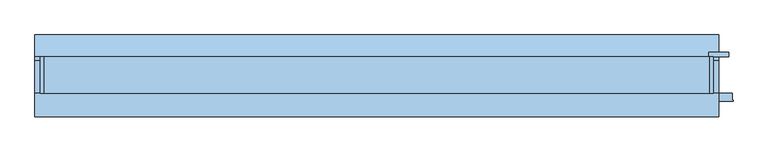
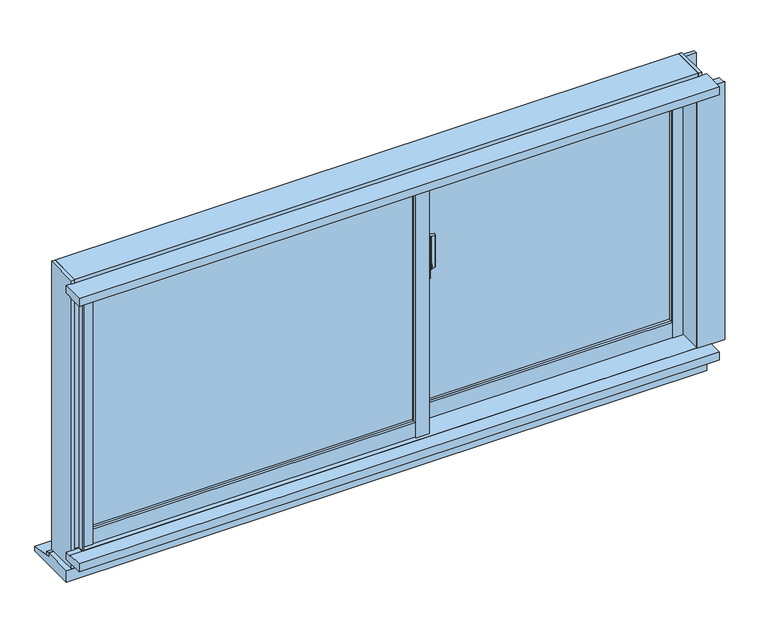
"""IFC4 building model written with IfcOpenShell, lengths in millimetres: window geometry, FNSⅡ100R_非防火_RC枠_単窓 : 外動片引."""

from ifc_helpers import new_model, si_unit, point, frame, frame_2d, origin, place, context, project, spatial, polyline, circle_curve, trimmed, segment, composite_curve, outline, extrude, faceted_brep, source, transform, mapped, element, save
from ifc_brep_helpers import plane_surface, cylinder_surface, revolved_surface, advanced_brep


def window_94f88ecb(model_context):
    return source(origin(), model_context, "Body", "SolidModel", [
        extrude(outline(polyline([(122.0, 25.3), (900.0, 25.3), (900.0, -23.1), (122.0, -23.1), (122.0, 25.3)])), frame((0.0, 0.0, 1700.0), z_axis=(0.0, 0.0, 1.0), x_axis=(1.0, 0.0, 0.0)), (0.0, 0.0, 1.0), 25.0),
        faceted_brep([(-915.0, 25.3, 1725.0), (-900.0, 25.3, 1725.0), (-900.0, -23.1, 1725.0), (122.0, -23.1, 1725.0), (122.0, 25.3, 1725.0), (915.0, 25.3, 1725.0), (915.0, -45.0, 1725.0), (-915.0, -45.0, 1725.0), (122.0, 25.3, 1700.0), (915.0, 25.3, 1700.0), (-915.0, 25.3, 1700.0), (-900.0, 25.3, 1700.0), (-915.0, 55.0, 1700.0), (915.0, 55.0, 1700.0), (122.0, -23.1, 1700.0), (-900.0, -23.1, 1700.0), (-915.0, 55.0, 1735.0), (915.0, 55.0, 1735.0), (-915.0, -45.0, 1735.0), (915.0, -45.0, 1735.0)], [[[0, 1, 2, 3, 4, 5, 6, 7]], [[5, 4, 8, 9]], [[10, 11, 1, 0]], [[12, 13, 9, 8, 14, 15, 11, 10]], [[16, 17, 13, 12]], [[18, 19, 17, 16]], [[7, 6, 19, 18]], [[12, 10, 0, 7, 18, 16]], [[13, 17, 19, 6, 5, 9]], [[2, 1, 11, 15]], [[8, 4, 3, 14]], [[15, 14, 3, 2]]]),
        extrude(outline(polyline([(-23.1, 1700.0), (-65.0, 1700.0), (-65.0, 1703.0), (-45.0, 1703.0), (-45.0, 1725.0), (-23.1, 1725.0), (-23.1, 1700.0)])), frame((-900.0, 0.0, 0.0), z_axis=(1.0, 0.0, 0.0), x_axis=(0.0, 1.0, 0.0)), (0.0, 0.0, 1.0), 1800.0),
        faceted_brep([(-900.0, -45.0, 1720.0), (-900.0, -40.5, 1720.0), (-915.0, -40.5, 1720.0), (-915.0, -45.0, 1720.0), (-900.0, -65.0, 900.0), (-903.0, -65.0, 900.0), (-903.0, -45.0, 900.0), (-915.0, -45.0, 900.0), (-915.0, -40.5, 900.0), (-900.0, -40.5, 900.0), (-900.0, -65.0, 1703.0), (-903.0, -65.0, 1703.0), (-903.0, -45.0, 1703.0), (-900.0, -45.0, 1703.0)], [[[0, 1, 2, 3]], [[4, 5, 6, 7, 8, 9]], [[4, 10, 11, 5]], [[5, 11, 12, 6]], [[0, 3, 7, 6, 12, 13]], [[2, 8, 7, 3]], [[1, 9, 8, 2]], [[9, 1, 0, 13, 10, 4]], [[12, 11, 10, 13]]]),
        faceted_brep([(915.0, -45.0, 1720.0), (915.0, 21.0, 1720.0), (900.0, 21.0, 1720.0), (900.0, -45.0, 1720.0), (915.0, -45.0, 900.0), (903.0, -45.0, 900.0), (903.0, -65.0, 900.0), (900.0, -65.0, 900.0), (900.0, 21.0, 900.0), (915.0, 21.0, 900.0), (900.0, -45.0, 1703.0), (903.0, -45.0, 1703.0), (903.0, -65.0, 1703.0), (900.0, -65.0, 1703.0)], [[[0, 1, 2, 3]], [[4, 5, 6, 7, 8, 9]], [[4, 0, 3, 10, 11, 5]], [[5, 11, 12, 6]], [[6, 12, 13, 7]], [[7, 13, 10, 3, 2, 8]], [[1, 9, 8, 2]], [[4, 9, 1, 0]], [[10, 13, 12, 11]]]),
        faceted_brep([(925.0, 55.0, 1735.0), (915.0, 55.0, 1735.0), (915.0, -45.0, 1735.0), (925.0, -45.0, 1735.0), (925.0, 55.0, 840.0), (925.0, -45.0, 840.0), (915.0, -45.0, 840.0), (915.0, 55.0, 840.0), (915.0, 55.0, 1700.0), (915.0, 21.0, 1700.0), (915.0, 21.0, 849.0), (915.0, 55.0, 849.0), (900.0, 55.0, 849.0), (900.0, 55.0, 1700.0), (900.0, 21.0, 1700.0), (900.0, 21.0, 849.0)], [[[0, 1, 2, 3]], [[4, 5, 6, 7]], [[3, 5, 4, 0]], [[2, 6, 5, 3]], [[1, 8, 9, 10, 11, 7, 6, 2]], [[0, 4, 7, 11, 12, 13, 8, 1]], [[13, 14, 9, 8]], [[12, 11, 10, 15]], [[14, 15, 10, 9]], [[13, 12, 15, 14]]]),
        faceted_brep([(-915.0, -45.0, 1735.0), (-915.0, 55.0, 1735.0), (-925.0, 55.0, 1735.0), (-925.0, -45.0, 1735.0), (-915.0, -45.0, 840.0), (-925.0, -45.0, 840.0), (-925.0, 55.0, 840.0), (-915.0, 55.0, 840.0), (-915.0, -40.5, 1700.0), (-915.0, -40.5, 849.0), (-900.0, -40.5, 849.0), (-900.0, -40.5, 1700.0), (-900.0, 55.0, 849.0), (-900.0, 55.0, 1700.0), (-915.0, 55.0, 1700.0), (-915.0, 55.0, 849.0)], [[[0, 1, 2, 3]], [[4, 5, 6, 7]], [[8, 9, 10, 11]], [[11, 10, 12, 13]], [[11, 13, 14, 8]], [[10, 9, 15, 12]], [[3, 5, 4, 0]], [[2, 6, 5, 3]], [[1, 14, 13, 12, 15, 7, 6, 2]], [[0, 4, 7, 15, 9, 8, 14, 1]]]),
        faceted_brep([(-915.0, -45.0, 884.0), (915.0, -45.0, 884.0), (915.0, 21.0, 884.0), (-915.0, 21.0, 884.0), (-900.0, -17.75, 884.0), (122.0, -17.75, 884.0), (122.0, -36.2, 884.0), (-900.0, -36.2, 884.0), (915.0, 21.0, 849.0), (-915.0, 21.0, 849.0), (915.0, 55.0, 849.0), (-915.0, 55.0, 849.0), (-915.0, 55.0, 840.0), (915.0, 55.0, 840.0), (915.0, -45.0, 840.0), (-915.0, -45.0, 840.0), (-900.0, -36.2, 900.0), (-900.0, -17.75, 900.0), (122.0, -36.2, 900.0), (122.0, -17.75, 900.0)], [[[0, 1, 2, 3], [4, 5, 6, 7]], [[3, 2, 8, 9]], [[9, 8, 10, 11]], [[12, 13, 14, 15]], [[12, 15, 0, 3, 9, 11]], [[13, 10, 8, 2, 1, 14]], [[15, 14, 1, 0]], [[11, 10, 13, 12]], [[16, 17, 4, 7]], [[18, 6, 5, 19]], [[7, 6, 18, 16]], [[17, 19, 5, 4]], [[16, 18, 19, 17]]]),
        faceted_brep([(-903.0, -65.0, 900.0), (-903.0, -40.5, 900.0), (-903.0, -40.5, 884.0), (-903.0, -45.0, 884.0), (-903.0, -45.0, 897.0), (-903.0, -65.0, 897.0), (903.0, -45.0, 884.0), (903.0, -36.2, 884.0), (903.0, -36.2, 900.0), (903.0, -65.0, 900.0), (903.0, -65.0, 897.0), (903.0, -45.0, 897.0), (900.0, -36.2, 900.0), (900.0, 21.0, 900.0), (122.0, 21.0, 900.0), (122.0, -36.2, 900.0), (-900.0, -36.2, 900.0), (-900.0, -40.5, 900.0), (122.0, -36.2, 884.0), (-900.0, -36.2, 884.0), (900.0, -36.2, 884.0), (-900.0, -40.5, 884.0), (122.0, 21.0, 884.0), (900.0, 21.0, 884.0)], [[[0, 1, 2, 3, 4, 5]], [[6, 7, 8, 9, 10, 11]], [[3, 6, 11, 4]], [[4, 11, 10, 5]], [[5, 10, 9, 0]], [[8, 12, 13, 14, 15, 16, 17, 1, 0, 9]], [[16, 15, 18, 19]], [[7, 20, 12, 8]], [[6, 3, 2, 21, 19, 18, 22, 23, 20, 7]], [[17, 16, 19, 21]], [[21, 2, 1, 17]], [[14, 22, 18, 15]], [[13, 12, 20, 23]], [[14, 13, 23, 22]]]),
        extrude(outline(composite_curve([segment(trimmed(circle_curve(frame_2d((141.0, -20.4)), 2.0), [point((139.0, -20.4))], [point((141.3606557, -18.4327869))], False, "CARTESIAN"), True, "CONTINUOUS"), segment(polyline([(141.3606557, -18.4327869), (152.3606557, -20.4494536)]), True, "CONTINUOUS"), segment(trimmed(circle_curve(frame_2d((152.0, -22.4166667)), 2.0), [point((152.3606557, -20.4494536))], [point((154.0, -22.4166667))], False, "CARTESIAN"), True, "CONTINUOUS"), segment(polyline([(154.0, -22.4166667), (154.0, -26.5833333)]), True, "CONTINUOUS"), segment(trimmed(circle_curve(frame_2d((152.0, -26.5833333)), 2.0), [point((154.0, -26.5833333))], [point((152.3606557, -28.5505464))], False, "CARTESIAN"), True, "CONTINUOUS"), segment(polyline([(152.3606557, -28.5505464), (141.3606557, -30.5672131)]), True, "CONTINUOUS"), segment(trimmed(circle_curve(frame_2d((141.0, -28.6)), 2.0), [point((141.3606557, -30.5672131))], [point((139.0, -28.6))], False, "CARTESIAN"), True, "CONTINUOUS"), segment(polyline([(139.0, -28.6), (139.0, -20.4)]), True, "CONTINUOUS")], self_intersect=False)), frame((0.0, 0.0, 1390.0), z_axis=(0.0, 0.0, 1.0), x_axis=(1.0, 0.0, 0.0)), (0.0, 0.0, 1.0), 100.0),
        advanced_brep(
        [(137.5, -16.1765715, 1421.7333311), (137.5, -18.3765334, 1413.5229616), (139.0, -18.3765334, 1413.5229616), (139.0, -16.5648001, 1420.2844424), (145.5, -16.5648001, 1420.2844424), (145.5, -16.1765715, 1421.7333311), (139.0, -18.3533883, 1379.3190372), (139.0, -19.5689255, 1386.2126915), (137.5, -19.5689255, 1386.2126915), (137.5, -18.092916, 1377.8418256), (145.5, -18.092916, 1377.8418256), (145.5, -18.3533883, 1379.3190372)],
        [
            (0, 1),
            (1, 2),
            (2, 3),
            (3, 4),
            (4, 5),
            (5, 0),
            (6, 7),
            (7, 8),
            (8, 9),
            (9, 10),
            (10, 11),
            (11, 6),
            (5, 10, circle_curve(frame((145.5, -22.0, 1400.0), z_axis=(-1.0, 0.0, 0.0), x_axis=(0.0, 0.25881904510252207, 0.965925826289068)), 22.5)),
            (9, 0, circle_curve(frame((137.5, -22.0, 1400.0), z_axis=(1.0, 0.0, 0.0), x_axis=(0.0, 0.25881904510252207, 0.965925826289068)), 22.5)),
            (4, 11, circle_curve(frame((145.5, -22.0, 1400.0), z_axis=(-1.0, 0.0, 0.0), x_axis=(0.0, 0.25881904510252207, 0.965925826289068)), 21.0)),
            (3, 6, circle_curve(frame((139.0, -22.0, 1400.0), z_axis=(-1.0, 0.0, 0.0), x_axis=(0.0, 0.25881904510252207, 0.965925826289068)), 21.0)),
            (2, 7, circle_curve(frame((139.0, -22.0, 1400.0), z_axis=(1.0, 0.0, 0.0), x_axis=(0.0, -1.0, 0.0)), 14.0)),
            (8, 1, circle_curve(frame((137.5, -22.0, 1400.0), z_axis=(-1.0, 0.0, 0.0), x_axis=(0.0, -1.0, 0.0)), 14.0)),
        ],
        [
            plane_surface(frame((143.5470497, -22.0, 1400.0), z_axis=(0.0, -0.965925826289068, 0.25881904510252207), x_axis=(0.0, 0.25881904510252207, 0.965925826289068))),
            plane_surface(frame((143.5470497, -22.0, 1400.0), z_axis=(0.0, -0.9848077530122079, -0.17364817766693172), x_axis=(0.0, 0.17364817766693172, -0.9848077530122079))),
            cylinder_surface(frame((143.5470497, -22.0, 1400.0), z_axis=(1.0, 0.0, 0.0), x_axis=(0.0, 0.25881904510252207, 0.965925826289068)), 22.5),
            plane_surface(frame((145.5, -22.0, 1400.0), z_axis=(1.0, 0.0, 0.0), x_axis=(0.0, 0.25881904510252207, 0.965925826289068))),
            revolved_surface(polyline([(145.5, -16.564800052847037, 1420.2844423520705), (139.0, -16.564800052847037, 1420.2844423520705)]), (143.5470497, -22.0, 1400.0), (1.0, 0.0, 0.0)),
            plane_surface(frame((139.0, -22.0, 1400.0), z_axis=(1.0, 0.0, 0.0), x_axis=(0.0, 0.25881904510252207, 0.965925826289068))),
            plane_surface(frame((137.5, -22.0, 1400.0), z_axis=(-1.0, 0.0, 0.0), x_axis=(0.0, 0.25881904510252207, 0.965925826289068))),
            cylinder_surface(frame((137.5, -22.0, 1400.0), z_axis=(1.0, 0.0, 0.0), x_axis=(0.0, -1.0, 0.0)), 14.0),
        ],
        [
            (0, [[1, 2, 3, 4, 5, 6]]),
            (1, [[7, 8, 9, 10, 11, 12]]),
            (2, [[13, -10, 14, -6]]),
            (3, [[15, -11, -13, -5]]),
            (4, [[16, -12, -15, -4]]),
            (5, [[-3, 17, -7, -16]]),
            (6, [[-9, 18, -1, -14]]),
            (7, [[-2, -18, -8, -17]]),
        ],
    ),
        extrude(outline(composite_curve([segment(trimmed(circle_curve(frame_2d((-22.0, 1400.0)), 11.5), [point((-10.5, 1400.0))], [point((-33.5, 1400.0))], False, "CARTESIAN"), True, "CONTINUOUS"), segment(trimmed(circle_curve(frame_2d((-22.0, 1400.0)), 11.5), [point((-33.5, 1400.0))], [point((-10.5, 1400.0))], False, "CARTESIAN"), True, "CONTINUOUS")], self_intersect=False)), frame((135.0, 0.0, 0.0), z_axis=(1.0, 0.0, 0.0), x_axis=(0.0, 1.0, 0.0)), (0.0, 0.0, 1.0), 2.5),
        extrude(outline(composite_curve([segment(polyline([(-31.0, 1437.5), (-13.0, 1437.5)]), True, "CONTINUOUS"), segment(trimmed(circle_curve(frame_2d((-13.0, 1435.5)), 2.0), [point((-13.0, 1437.5))], [point((-11.0, 1435.5))], False, "CARTESIAN"), True, "CONTINUOUS"), segment(polyline([(-11.0, 1435.5), (-11.0, 1364.5)]), True, "CONTINUOUS"), segment(trimmed(circle_curve(frame_2d((-13.0, 1364.5)), 2.0), [point((-11.0, 1364.5))], [point((-13.0, 1362.5))], False, "CARTESIAN"), True, "CONTINUOUS"), segment(polyline([(-13.0, 1362.5), (-31.0, 1362.5)]), True, "CONTINUOUS"), segment(trimmed(circle_curve(frame_2d((-31.0, 1364.5)), 2.0), [point((-31.0, 1362.5))], [point((-33.0, 1364.5))], False, "CARTESIAN"), True, "CONTINUOUS"), segment(polyline([(-33.0, 1364.5), (-33.0, 1435.5)]), True, "CONTINUOUS"), segment(trimmed(circle_curve(frame_2d((-31.0, 1435.5)), 2.0), [point((-33.0, 1435.5))], [point((-31.0, 1437.5))], False, "CARTESIAN"), True, "CONTINUOUS")], self_intersect=False)), frame((120.0, 0.0, 0.0), z_axis=(1.0, 0.0, 0.0), x_axis=(0.0, 1.0, 0.0)), (0.0, 0.0, 1.0), 15.0),
        extrude(outline(polyline([(80.0, -31.0), (80.0, -37.0), (-868.0, -37.0), (-868.0, -31.0), (80.0, -31.0)])), frame((0.0, 0.0, 948.0), z_axis=(0.0, 0.0, 1.0), x_axis=(1.0, 0.0, 0.0)), (0.0, 0.0, 1.0), 712.0),
        extrude(outline(polyline([(80.0, -13.0), (80.0, -19.0), (-868.0, -19.0), (-868.0, -13.0), (80.0, -13.0)])), frame((0.0, 0.0, 948.0), z_axis=(0.0, 0.0, 1.0), x_axis=(1.0, 0.0, 0.0)), (0.0, 0.0, 1.0), 712.0),
        extrude(outline(polyline([(868.0, 27.0), (868.0, 21.0), (120.0, 21.0), (120.0, 27.0), (868.0, 27.0)])), frame((0.0, 0.0, 948.0), z_axis=(0.0, 0.0, 1.0), x_axis=(1.0, 0.0, 0.0)), (0.0, 0.0, 1.0), 712.0),
        extrude(outline(polyline([(868.0, 45.0), (868.0, 39.0), (120.0, 39.0), (120.0, 45.0), (868.0, 45.0)])), frame((0.0, 0.0, 948.0), z_axis=(0.0, 0.0, 1.0), x_axis=(1.0, 0.0, 0.0)), (0.0, 0.0, 1.0), 712.0),
        faceted_brep([(900.0, 24.0, 1700.0), (900.0, 53.0, 1700.0), (868.0, 53.0, 1700.0), (868.0, 11.0, 1700.0), (889.5, 11.0, 1700.0), (889.5, 24.0, 1700.0), (868.0, 24.0, 860.0), (868.0, 53.0, 860.0), (900.0, 53.0, 860.0), (900.0, 24.0, 860.0), (889.5, 24.0, 900.0), (868.0, 24.0, 900.0), (889.5, 11.0, 900.0), (868.0, 11.0, 900.0)], [[[0, 1, 2, 3, 4, 5]], [[6, 7, 8, 9]], [[5, 10, 11, 6, 9, 0]], [[4, 12, 10, 5]], [[3, 13, 12, 4]], [[2, 7, 6, 11, 13, 3]], [[1, 8, 7, 2]], [[9, 8, 1, 0]], [[10, 12, 13, 11]]]),
        faceted_brep([(120.0, 10.5, 1700.0), (120.0, 53.0, 1700.0), (80.0, 53.0, 1700.0), (80.0, -1.9, 1700.0), (101.8, -1.9, 1700.0), (101.8, 10.5, 1700.0), (120.0, 53.0, 860.0), (120.0, 24.0, 860.0), (80.0, 24.0, 860.0), (80.0, 53.0, 860.0), (101.8, 10.5, 900.0), (120.0, 10.5, 900.0), (101.8, -1.9, 900.0), (80.0, -1.9, 900.0), (80.0, 24.0, 900.0), (120.0, 24.0, 900.0)], [[[0, 1, 2, 3, 4, 5]], [[6, 7, 8, 9]], [[5, 10, 11, 0]], [[4, 12, 10, 5]], [[3, 13, 12, 4]], [[2, 9, 8, 14, 13, 3]], [[1, 6, 9, 2]], [[0, 11, 15, 7, 6, 1]], [[14, 8, 7, 15]], [[15, 11, 10, 12, 13, 14]]]),
        extrude(outline(polyline([(120.0, -1.9), (120.0, -55.0), (80.0, -55.0), (80.0, -43.0), (82.6, -43.0), (82.6, -47.0), (115.0, -47.0), (115.0, -1.9), (120.0, -1.9)])), frame((0.0, 0.0, 900.0), z_axis=(0.0, 0.0, 1.0), x_axis=(1.0, 0.0, 0.0)), (0.0, 0.0, 1.0), 800.0),
        extrude(outline(polyline([(115.0, -1.9), (115.0, -47.0), (82.6, -47.0), (82.6, -43.0), (80.0, -43.0), (80.0, -1.9), (115.0, -1.9)])), frame((0.0, 0.0, 900.0), z_axis=(0.0, 0.0, 1.0), x_axis=(1.0, 0.0, 0.0)), (0.0, 0.0, 1.0), 800.0),
        extrude(outline(polyline([(-868.0, -55.0), (-897.0, -55.0), (-897.0, -34.0), (-889.5, -34.0), (-889.5, -47.0), (-868.0, -47.0), (-868.0, -55.0)])), frame((0.0, 0.0, 903.0), z_axis=(0.0, 0.0, 1.0), x_axis=(1.0, 0.0, 0.0)), (0.0, 0.0, 1.0), 797.0),
        extrude(outline(polyline([(-868.0, -5.0), (-868.0, -47.0), (-889.5, -47.0), (-889.5, -34.0), (-900.0, -34.0), (-900.0, -5.0), (-868.0, -5.0)])), frame((0.0, 0.0, 900.0), z_axis=(0.0, 0.0, 1.0), x_axis=(1.0, 0.0, 0.0)), (0.0, 0.0, 1.0), 800.0),
        extrude(outline(polyline([(101.8, 10.5), (120.0, 10.5), (120.0, 3.0), (101.8, 3.0), (101.8, 10.5)])), frame((0.0, 0.0, 900.0), z_axis=(0.0, 0.0, 1.0), x_axis=(1.0, 0.0, 0.0)), (0.0, 0.0, 1.0), 800.0),
        extrude(outline(polyline([(897.0, 24.0), (897.0, 3.0), (868.0, 3.0), (868.0, 11.0), (889.5, 11.0), (889.5, 24.0), (897.0, 24.0)])), frame((0.0, 0.0, 900.0), z_axis=(0.0, 0.0, 1.0), x_axis=(1.0, 0.0, 0.0)), (0.0, 0.0, 1.0), 800.0),
        extrude(outline(polyline([(-53.0, 903.0), (-53.0, 948.0), (-45.0, 948.0), (-45.0, 925.5), (-34.0, 925.5), (-34.0, 903.0), (-53.0, 903.0)])), frame((-868.0, 0.0, 0.0), z_axis=(1.0, 0.0, 0.0), x_axis=(0.0, 1.0, 0.0)), (0.0, 0.0, 1.0), 948.0),
        extrude(outline(polyline([(-5.0, 900.0), (-34.0, 900.0), (-34.0, 925.5), (-45.0, 925.5), (-45.0, 948.0), (-5.0, 948.0), (-5.0, 900.0)])), frame((-868.0, 0.0, 0.0), z_axis=(1.0, 0.0, 0.0), x_axis=(0.0, 1.0, 0.0)), (0.0, 0.0, 1.0), 948.0),
        extrude(outline(polyline([(5.0, 948.0), (13.0, 948.0), (13.0, 925.5), (24.0, 925.5), (24.0, 900.0), (5.0, 900.0), (5.0, 948.0)])), frame((120.0, 0.0, 0.0), z_axis=(1.0, 0.0, 0.0), x_axis=(0.0, 1.0, 0.0)), (0.0, 0.0, 1.0), 748.0),
        extrude(outline(polyline([(53.0, 860.0), (24.0, 860.0), (24.0, 925.5), (13.0, 925.5), (13.0, 948.0), (53.0, 948.0), (53.0, 860.0)])), frame((120.0, 0.0, 0.0), z_axis=(1.0, 0.0, 0.0), x_axis=(0.0, 1.0, 0.0)), (0.0, 0.0, 1.0), 748.0),
        extrude(outline(polyline([(-32.0, 1680.5), (-45.0, 1680.5), (-45.0, 1660.0), (-53.0, 1660.0), (-53.0, 1700.0), (-32.0, 1700.0), (-32.0, 1680.5)])), frame((-868.0, 0.0, 0.0), z_axis=(1.0, 0.0, 0.0), x_axis=(0.0, 1.0, 0.0)), (0.0, 0.0, 1.0), 948.0),
        extrude(outline(polyline([(-5.0, 1700.0), (-5.0, 1660.0), (-45.0, 1660.0), (-45.0, 1680.5), (-32.0, 1680.5), (-32.0, 1700.0), (-5.0, 1700.0)])), frame((-868.0, 0.0, 0.0), z_axis=(1.0, 0.0, 0.0), x_axis=(0.0, 1.0, 0.0)), (0.0, 0.0, 1.0), 948.0),
        extrude(outline(polyline([(26.0, 1680.5), (13.0, 1680.5), (13.0, 1660.0), (5.0, 1660.0), (5.0, 1700.0), (26.0, 1700.0), (26.0, 1680.5)])), frame((120.0, 0.0, 0.0), z_axis=(1.0, 0.0, 0.0), x_axis=(0.0, 1.0, 0.0)), (0.0, 0.0, 1.0), 748.0),
        extrude(outline(polyline([(53.0, 1700.0), (53.0, 1660.0), (13.0, 1660.0), (13.0, 1680.5), (26.0, 1680.5), (26.0, 1700.0), (53.0, 1700.0)])), frame((120.0, 0.0, 0.0), z_axis=(1.0, 0.0, 0.0), x_axis=(0.0, 1.0, 0.0)), (0.0, 0.0, 1.0), 748.0),
        extrude(outline(polyline([(-110.0, 900.0), (-65.0, 900.0), (-65.0, 897.0), (-45.0, 897.0), (-45.0, 875.0), (-110.0, 875.0), (-110.0, 900.0)])), frame((-940.0, 0.0, 0.0), z_axis=(1.0, 0.0, 0.0), x_axis=(0.0, 1.0, 0.0)), (0.0, 0.0, 1.0), 1880.0),
        extrude(outline(polyline([(45.0, 840.0), (55.0, 840.0), (55.0, 828.4285714), (45.0, 830.0), (45.0, 840.0)])), frame((-940.0, 0.0, 0.0), z_axis=(1.0, 0.0, 0.0), x_axis=(0.0, 1.0, 0.0)), (0.0, 0.0, 1.0), 1880.0),
        extrude(outline(polyline([(-45.0, 804.0), (-45.0, 840.0), (45.0, 840.0), (45.0, 830.0), (115.0, 819.0), (115.0, 804.0), (-45.0, 804.0)])), frame((-940.0, 0.0, 0.0), z_axis=(1.0, 0.0, 0.0), x_axis=(0.0, 1.0, 0.0)), (0.0, 0.0, 1.0), 1880.0),
        extrude(outline(polyline([(903.0, -65.0), (903.0, -45.0), (977.0, -45.0), (977.0, -65.0), (980.0, -65.0), (980.0, -67.5), (900.0, -67.5), (900.0, -65.0), (903.0, -65.0)])), frame((0.0, 0.0, 900.0), z_axis=(0.0, 0.0, 1.0), x_axis=(1.0, 0.0, 0.0)), (0.0, 0.0, 1.0), 800.0),
        extrude(outline(polyline([(967.5, 55.0), (912.5, 55.0), (912.5, 67.0), (967.5, 67.0), (967.5, 55.0)])), frame((0.0, 0.0, 840.0), z_axis=(0.0, 0.0, 1.0), x_axis=(1.0, 0.0, 0.0)), (0.0, 0.0, 1.0), 880.0),
        extrude(outline(polyline([(-110.0, 1725.0), (-45.0, 1725.0), (-45.0, 1703.0), (-65.0, 1703.0), (-65.0, 1700.0), (-110.0, 1700.0), (-110.0, 1725.0)])), frame((-940.0, 0.0, 0.0), z_axis=(1.0, 0.0, 0.0), x_axis=(0.0, 1.0, 0.0)), (0.0, 0.0, 1.0), 1880.0),
    ])


if __name__ == "__main__":
    model = new_model("IFC4")
    model_context = context("Model", 3, world=origin())
    ifc_project = project(units=[si_unit("LENGTHUNIT", "METRE", prefix="MILLI")], contexts=[model_context])
    site = spatial("IfcSite", under=ifc_project)
    building = spatial("IfcBuilding", under=site)
    placement = place(None, origin())
    window_shape = window_94f88ecb(model_context)
    element("IfcWindow", 1, ObjectType="FNSⅡ100R_非防火_RC枠_単窓 : 外動片引", at=placement, inside=building, context=model_context, shape_type="MappedRepresentation", body=[
        mapped(window_shape, transform((0.0, 0.0, 0.0), x_axis=(1.0, 0.0, 0.0), y_axis=(0.0, 1.0, 0.0), z_axis=(0.0, 0.0, 1.0))),
    ])
    save(model, "model.ifc")
